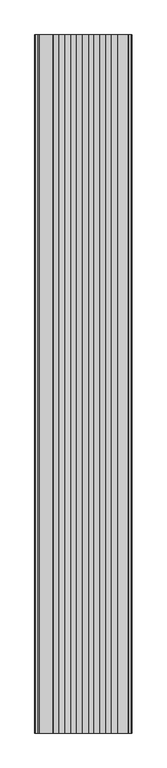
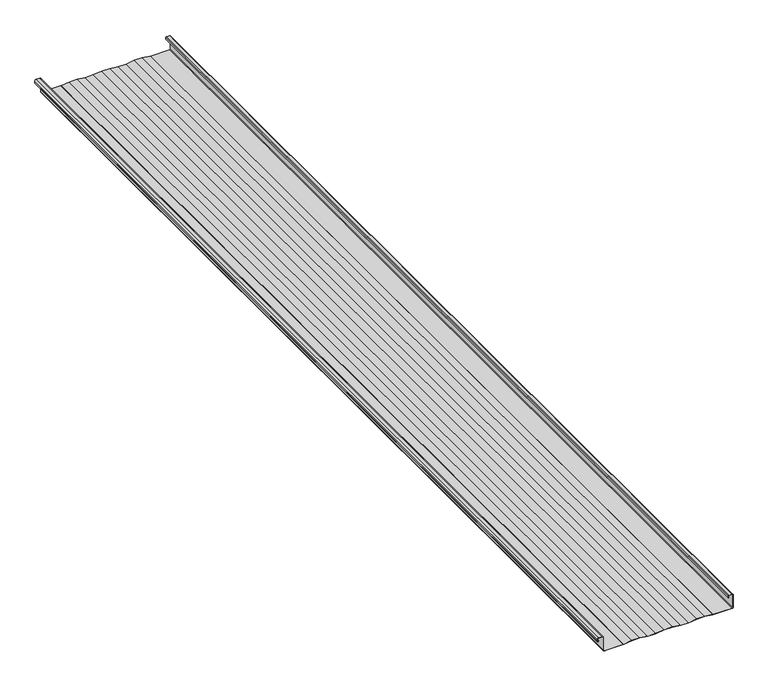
"""IFC4 building model written with IfcOpenShell, lengths in millimetres: proxy geometry."""

import ifcopenshell
import ifcopenshell.guid

model = None  # the IFC model being written
_history = None  # IfcOwnerHistory: only IFC2X3 demands one
_inside = {}  # id of a spatial element -> (the spatial element, [elements in it])
_under = {}  # id of a project, library or spatial element -> (it, [spatial elements below it])
_declared = {}  # id of a project -> (the project, [libraries it declares])
_typed = {}  # id of a type object -> (the type object, [elements of that type])
_made_of = {}  # id of a material, layer set ... -> (it, [elements and type objects made of it])


def new_model(schema):
    """Start an empty IFC model of exactly this schema.

    Asked for "IFC4X3", IfcOpenShell would pick the latest addendum, in which some entities
    have other attributes; the version numbers below select the first issue.
    IFC2X3 requires an IfcOwnerHistory on every rooted entity: one is made here for all.
    """
    global model, _history
    if schema == "IFC4X3":
        model = ifcopenshell.file(schema_version=(4, 3, 0, 0))
    else:
        model = ifcopenshell.file(schema=schema)
    _inside.clear()
    _under.clear()
    _declared.clear()
    _typed.clear()
    _made_of.clear()
    _history = None
    if model.schema == "IFC2X3":
        org = make("IfcOrganization", Name="unknown")
        user = make(
            "IfcPersonAndOrganization",
            ThePerson=make("IfcPerson", FamilyName="unknown"),
            TheOrganization=org,
        )
        app = make(
            "IfcApplication",
            ApplicationDeveloper=org,
            Version="unknown",
            ApplicationFullName="unknown",
            ApplicationIdentifier="unknown",
        )
        _history = make(
            "IfcOwnerHistory",
            OwningUser=user,
            OwningApplication=app,
            ChangeAction="ADDED",
            CreationDate=0,
        )
    return model


def make(cls, **values):
    """One entity of the class cls with the attributes given. An attribute that is None is left unset."""
    return model.create_entity(
        cls, **{name: value for name, value in values.items() if value is not None}
    )


def rooted(cls, **values):
    """An entity with a GlobalId (a new one), such as an element, a storey or a relation."""
    return make(cls, GlobalId=ifcopenshell.guid.new(), OwnerHistory=_history, **values)


def si_unit(unit_type, name, prefix=None):
    """IfcSIUnit, for example si_unit("LENGTHUNIT", "METRE", prefix="MILLI")."""
    return make("IfcSIUnit", UnitType=unit_type, Prefix=prefix, Name=name)


def assignment(units):
    """IfcUnitAssignment: the units of a project."""
    return None if units is None else make("IfcUnitAssignment", Units=units)


def point(xyz):
    """IfcCartesianPoint."""
    return None if xyz is None else make("IfcCartesianPoint", Coordinates=xyz)


def direction(xyz):
    """IfcDirection."""
    return None if xyz is None else make("IfcDirection", DirectionRatios=xyz)


def frame(location, z_axis=None, x_axis=None):
    """IfcAxis2Placement3D, a coordinate frame: its origin and axes. An axis left out is left unset."""
    return make(
        "IfcAxis2Placement3D",
        Location=point(location),
        Axis=direction(z_axis),
        RefDirection=direction(x_axis),
    )


def frame_2d(location, x_axis=None):
    """IfcAxis2Placement2D, a coordinate frame in the plane: its origin and x axis."""
    return make(
        "IfcAxis2Placement2D", Location=point(location), RefDirection=direction(x_axis)
    )


def origin():
    """The frame at (0, 0, 0) with its axes left unset."""
    return frame((0.0, 0.0, 0.0))


def place(relative_to, where):
    """IfcLocalPlacement: puts the frame where relative to a parent placement (None: the world)."""
    return make(
        "IfcLocalPlacement", PlacementRelTo=relative_to, RelativePlacement=where
    )


def context(
    kind, dimensions, precision=None, world=None, true_north=None, identifier=None
):
    """IfcGeometricRepresentationContext, for example the 3D "Model" context."""
    return make(
        "IfcGeometricRepresentationContext",
        ContextIdentifier=identifier,
        ContextType=kind,
        CoordinateSpaceDimension=dimensions,
        Precision=precision,
        WorldCoordinateSystem=world,
        TrueNorth=true_north,
    )


def project(units=None, contexts=None):
    """IfcProject with its units and contexts."""
    return rooted(
        "IfcProject",
        Name="project",
        RepresentationContexts=contexts,
        UnitsInContext=assignment(units),
    )


def spatial(cls, under=None, at=None, **own):
    """A site, building, storey or space (cls), placed at a placement, below another one or the project."""
    s = rooted(cls, ObjectPlacement=at, **own)
    if under is not None:
        _under.setdefault(under.id(), (under, []))[1].append(s)
    return s


def polyline(points):
    """IfcPolyline through the points."""
    return make("IfcPolyline", Points=[point(p) for p in points])


def circle_curve(where, radius):
    """IfcCircle in the frame where."""
    return make("IfcCircle", Position=where, Radius=radius)


def trimmed(basis, trim1, trim2, sense, master):
    """IfcTrimmedCurve: the piece of a basis curve between two trims."""
    return make(
        "IfcTrimmedCurve",
        BasisCurve=basis,
        Trim1=trim1,
        Trim2=trim2,
        SenseAgreement=sense,
        MasterRepresentation=master,
    )


def segment(curve, same_sense, transition):
    """IfcCompositeCurveSegment."""
    return make(
        "IfcCompositeCurveSegment",
        Transition=transition,
        SameSense=same_sense,
        ParentCurve=curve,
    )


def composite_curve(segments, self_intersect=None):
    """IfcCompositeCurve: segments joined end to end."""
    return make("IfcCompositeCurve", Segments=segments, SelfIntersect=self_intersect)


def outline(outer, holes=None, kind="AREA"):
    """IfcArbitraryClosedProfileDef: a profile drawn as a closed curve; with holes, ...WithVoids."""
    if holes is None:
        return make("IfcArbitraryClosedProfileDef", ProfileType=kind, OuterCurve=outer)
    return make(
        "IfcArbitraryProfileDefWithVoids",
        ProfileType=kind,
        OuterCurve=outer,
        InnerCurves=holes,
    )


def extrude(swept, where, along, depth):
    """IfcExtrudedAreaSolid: the profile swept, set in the frame where, extruded along a direction by depth."""
    return make(
        "IfcExtrudedAreaSolid",
        SweptArea=swept,
        Position=where,
        ExtrudedDirection=direction(along),
        Depth=depth,
    )


def shape(context_of_items, identifier, shape_type, items):
    """IfcShapeRepresentation: the items that make up one representation, for example the "Body"."""
    return make(
        "IfcShapeRepresentation",
        ContextOfItems=context_of_items,
        RepresentationIdentifier=identifier,
        RepresentationType=shape_type,
        Items=items,
    )


def source(mapping_origin, context_of_items, identifier, shape_type, items):
    """IfcRepresentationMap: a shape defined once, which mapped items show again and again."""
    return make(
        "IfcRepresentationMap",
        MappingOrigin=mapping_origin,
        MappedRepresentation=shape(context_of_items, identifier, shape_type, items),
    )


def transform(
    local_origin,
    x_axis=None,
    y_axis=None,
    z_axis=None,
    scale=None,
    scale2=None,
    scale3=None,
    uniform=True,
):
    """IfcCartesianTransformationOperator3D, or its non-uniform kind. x_axis, y_axis, z_axis: its Axis1, 2, 3."""
    if uniform:
        return make(
            "IfcCartesianTransformationOperator3D",
            Axis1=direction(x_axis),
            Axis2=direction(y_axis),
            LocalOrigin=point(local_origin),
            Scale=scale,
            Axis3=direction(z_axis),
        )
    return make(
        "IfcCartesianTransformationOperator3DnonUniform",
        Axis1=direction(x_axis),
        Axis2=direction(y_axis),
        LocalOrigin=point(local_origin),
        Scale=scale,
        Axis3=direction(z_axis),
        Scale2=scale2,
        Scale3=scale3,
    )


def mapped(mapping_source, mapping_target):
    """IfcMappedItem: shows the shape of a source again, moved by a transform."""
    return make(
        "IfcMappedItem", MappingSource=mapping_source, MappingTarget=mapping_target
    )


def made_of(thing, what):
    """Note that an element or type object is made of a material, layer set ...; save() writes the relation."""
    if what is not None:
        _made_of.setdefault(what.id(), (what, []))[1].append(thing)
    return thing


def element(
    cls,
    number,
    at=None,
    inside=None,
    cuts=None,
    type_object=None,
    material=None,
    context=None,
    identifier="Body",
    shape_type=None,
    held_by="IfcProductDefinitionShape",
    body=None,
    shapes=None,
    **own,
):
    """One element of the class cls, such as IfcWall. Its Tag is "e" and its number.

    at: its placement. inside: the storey or other place that contains it. cuts: it is an
    opening in that element (IfcRelVoidsElement). A single representation is given by context,
    identifier, shape_type and body (its items); several are given by shapes. held_by: the class
    of the entity that holds the representations. save() writes the other relations.
    """
    e = rooted(cls, Tag="e%d" % number, ObjectPlacement=at, **own)
    if body is not None:
        shapes = [shape(context, identifier, shape_type, body)]
    if shapes is not None:
        e.Representation = make(held_by, Representations=shapes)
    if inside is not None:
        _inside.setdefault(inside.id(), (inside, []))[1].append(e)
    if cuts is not None:
        rooted(
            "IfcRelVoidsElement", RelatingBuildingElement=cuts, RelatedOpeningElement=e
        )
    if type_object is not None:
        _typed.setdefault(type_object.id(), (type_object, []))[1].append(e)
    return made_of(e, material)


def aggregate(whole, parts):
    """IfcRelAggregates: a whole, such as a stair, and the parts it consists of."""
    return rooted("IfcRelAggregates", RelatingObject=whole, RelatedObjects=parts)


def save(model, path):
    """Write the relations noted so far, then the file.

    IfcRelAggregates (storeys below a building ...), IfcRelContainedInSpatialStructure (elements
    in a storey), IfcRelDefinesByType, IfcRelAssociatesMaterial and IfcRelDeclares: one each for
    every whole, place, type object, material and project.
    """
    for whole, parts in _under.values():
        aggregate(whole, parts)
    for where, things in _inside.values():
        rooted(
            "IfcRelContainedInSpatialStructure",
            RelatedElements=things,
            RelatingStructure=where,
        )
    for kind, things in _typed.values():
        rooted("IfcRelDefinesByType", RelatedObjects=things, RelatingType=kind)
    for what, things in _made_of.values():
        rooted("IfcRelAssociatesMaterial", RelatedObjects=things, RelatingMaterial=what)
    for by, libraries in _declared.values():
        rooted("IfcRelDeclares", RelatingContext=by, RelatedDefinitions=libraries)
    model.write(path)


def generic_models_8f1d55d1(model_context):
    return source(origin(), model_context, "Body", "SweptSolid", [
        extrude(outline(polyline([(3.9412999, -12.1910355), (0.7409019, -37.7988209), (0.7409019, -63.1054511), (3.9412999, -88.5987887), (3.9412999, -114.0921263), (0.7815609, -139.1230697), (0.0, -139.1230697), (3.200398, -113.9987726), (3.200398, -88.5987887), (0.0, -63.1988048), (0.0, -37.7988209), (3.1945399, -12.0976819), (3.1945399, 13.8538525), (0.0, 39.2538364), (0.0, 64.6538204), (3.200398, 90.0538043), (3.200398, 115.4537882), (0.0, 140.2769303), (0.7815609, 140.2769303), (3.9412999, 115.5471418), (3.9412999, 90.0538043), (0.7409019, 64.5604667), (0.7409019, 39.2538364), (3.9412999, 13.9472061), (3.9412999, -12.1910355)])), frame((0.0, -3048.0, 0.0), z_axis=(0.0, 1.0, 0.0), x_axis=(0.0, 0.0, 1.0)), (0.0, 0.0, 1.0), 3048.0),
        extrude(outline(composite_curve([segment(polyline([(44.3801219, 188.3849896), (38.8842004, 188.3849896), (38.8842004, 189.1660112), (44.3801252, 189.131747)]), True, "CONTINUOUS"), segment(trimmed(circle_curve(frame_2d((44.3801252, 190.9948393)), 1.8630923), [point((44.3801252, 189.131747))], [point((46.2432175, 190.9948393))], True, "CARTESIAN"), True, "CONTINUOUS"), segment(polyline([(46.2432175, 190.9948393), (46.2432175, 200.8913207)]), True, "CONTINUOUS"), segment(trimmed(circle_curve(frame_2d((44.380115, 200.8913207)), 1.8631025), [point((46.2432175, 200.8913207))], [point((44.380115, 202.7544231))], True, "CARTESIAN"), True, "CONTINUOUS"), segment(polyline([(44.380115, 202.7544231), (2.6098371, 202.7544231)]), True, "CONTINUOUS"), segment(trimmed(circle_curve(frame_2d((2.6098371, 200.8913684)), 1.8630547), [point((2.6098371, 202.7544231))], [point((0.7467824, 200.8913684))], True, "CARTESIAN"), True, "CONTINUOUS"), segment(polyline([(0.7467824, 200.8913684), (0.7467824, 141.3093278), (0.7815609, 140.2769303), (0.0, 140.2769303), (0.0, 201.3887228)]), True, "CONTINUOUS"), segment(trimmed(circle_curve(frame_2d((2.6098371, 200.8913684)), 2.6568047), [point((0.0, 201.3887228))], [point((2.1122177, 203.501155))], False, "CARTESIAN"), True, "CONTINUOUS"), segment(polyline([(2.1122177, 203.501155), (44.840532, 203.501155)]), True, "CONTINUOUS"), segment(trimmed(circle_curve(frame_2d((44.342908, 200.8913207)), 2.6568525), [point((44.840532, 203.501155))], [point((46.9899703, 200.663447))], False, "CARTESIAN"), True, "CONTINUOUS"), segment(polyline([(46.9899703, 200.663447), (46.9899703, 190.9948379)]), True, "CONTINUOUS"), segment(trimmed(circle_curve(frame_2d((44.3801219, 190.9948379)), 2.6098483), [point((46.9899703, 190.9948379))], [point((44.3801219, 188.3849896))], False, "CARTESIAN"), True, "CONTINUOUS")], self_intersect=False)), frame((0.0, -3048.0, 0.0), z_axis=(0.0, 1.0, 0.0), x_axis=(0.0, 0.0, 1.0)), (0.0, 0.0, 1.0), 3048.0),
        extrude(outline(composite_curve([segment(polyline([(0.0, -200.2889966), (0.0, -139.1230697), (0.7815609, -139.1230697), (0.74676, -139.9652239), (0.74676, -200.2889966)]), True, "CONTINUOUS"), segment(trimmed(circle_curve(frame_2d((2.6098483, -200.2889966)), 1.8630883), [point((0.74676, -200.2889966))], [point((2.6098483, -202.152085))], True, "CARTESIAN"), True, "CONTINUOUS"), segment(polyline([(2.6098483, -202.152085), (44.8373216, -202.152085)]), True, "CONTINUOUS"), segment(trimmed(circle_curve(frame_2d((44.8373216, -206.080193)), 3.928108), [point((44.8373216, -202.152085))], [point((48.7654296, -206.080193))], False, "CARTESIAN"), True, "CONTINUOUS"), segment(polyline([(48.7654296, -206.080193), (48.7654296, -216.8910611)]), True, "CONTINUOUS"), segment(trimmed(circle_curve(frame_2d((44.8373216, -216.8910611)), 3.928108), [point((48.7654296, -216.8910611))], [point((44.8373216, -220.8191691))], False, "CARTESIAN"), True, "CONTINUOUS"), segment(polyline([(44.8373216, -220.8191691), (37.8697862, -220.8191691)]), True, "CONTINUOUS"), segment(trimmed(circle_curve(frame_2d((37.8697862, -219.2544704)), 1.5646987), [point((37.8697862, -220.8191691))], [point((36.7705435, -218.1409411))], False, "CARTESIAN"), True, "CONTINUOUS"), segment(polyline([(36.7705435, -218.1409411), (38.4174757, -216.515139), (38.9675242, -217.0723363), (37.2951624, -218.6723783)]), True, "CONTINUOUS"), segment(trimmed(circle_curve(frame_2d((37.8697862, -219.2544704)), 0.8179387), [point((37.2951624, -218.6723783))], [point((37.8697862, -220.0724091))], True, "CARTESIAN"), True, "CONTINUOUS"), segment(polyline([(37.8697862, -220.0724091), (44.8373216, -220.0724091)]), True, "CONTINUOUS"), segment(trimmed(circle_curve(frame_2d((44.8373216, -216.8910611)), 3.181348), [point((44.8373216, -220.0724091))], [point((48.0186696, -216.8910611))], True, "CARTESIAN"), True, "CONTINUOUS"), segment(polyline([(48.0186696, -216.8910611), (48.0186696, -206.080193)]), True, "CONTINUOUS"), segment(trimmed(circle_curve(frame_2d((44.8373216, -206.080193)), 3.181348), [point((48.0186696, -206.080193))], [point((44.8373216, -202.898845))], True, "CARTESIAN"), True, "CONTINUOUS"), segment(polyline([(44.8373216, -202.898845), (2.6098483, -202.898845)]), True, "CONTINUOUS"), segment(trimmed(circle_curve(frame_2d((2.6098483, -200.2889966)), 2.6098483), [point((2.6098483, -202.898845))], [point((0.0, -200.2889966))], False, "CARTESIAN"), True, "CONTINUOUS")], self_intersect=False)), frame((0.0, -3048.0, 0.0), z_axis=(0.0, 1.0, 0.0), x_axis=(0.0, 0.0, 1.0)), (0.0, 0.0, 1.0), 3048.0),
    ])


if __name__ == "__main__":
    model = new_model("IFC4")
    model_context = context("Model", 3, world=origin())
    ifc_project = project(units=[si_unit("LENGTHUNIT", "METRE", prefix="MILLI")], contexts=[model_context])
    site = spatial("IfcSite", under=ifc_project)
    building = spatial("IfcBuilding", under=site)
    placement = place(None, origin())
    generic_models_shape = generic_models_8f1d55d1(model_context)
    element("IfcBuildingElementProxy", 1, Name="Span-Seam_Striated_Panel_AEP_Span : 16\" Span-Lok hp Striated - 22ga", ObjectType="Span-Seam_Striated_Panel_AEP_Span : 16\" Span-Lok hp Striated - 22ga", at=placement, inside=building, context=model_context, shape_type="MappedRepresentation", body=[
        mapped(generic_models_shape, transform((0.0, 0.0, 0.0), x_axis=(1.0, 0.0, 0.0), y_axis=(0.0, 1.0, 0.0), z_axis=(0.0, 0.0, 1.0))),
    ])
    save(model, "model.ifc")
